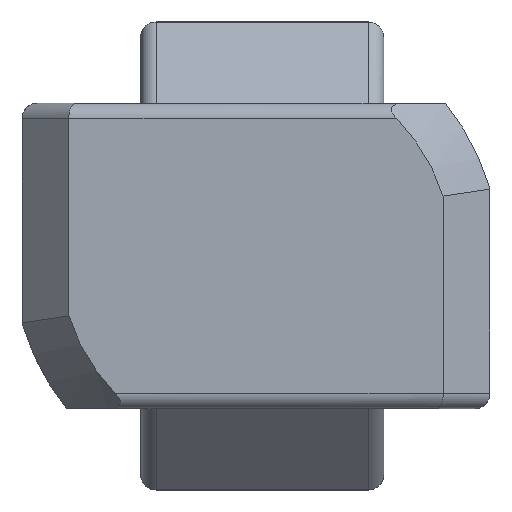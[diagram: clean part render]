
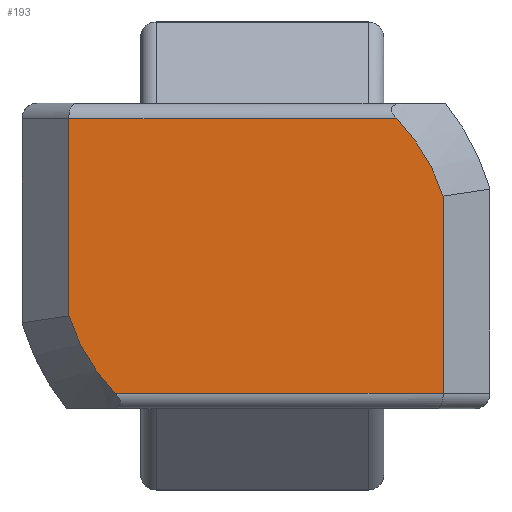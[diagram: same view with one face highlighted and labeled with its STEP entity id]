
A CAD part, left-side view. The second image highlights one B-rep face of the part: STEP entity #193.
In plain terms, the highlighted planar face has unit normal (-1, 0, 0).
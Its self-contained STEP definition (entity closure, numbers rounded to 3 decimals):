
#193=ADVANCED_FACE('',(#491),#492,.F.);
#491=FACE_OUTER_BOUND('',#901,.T.);
#492=PLANE('',#902);
#901=EDGE_LOOP('',(#1537,#1538,#1539,#1540,#1541,#1542));
#902=AXIS2_PLACEMENT_3D('',#1543,#1544,#1545);
#1537=ORIENTED_EDGE('',*,*,#2673,.F.);
#1538=ORIENTED_EDGE('',*,*,#2674,.T.);
#1539=ORIENTED_EDGE('',*,*,#2675,.F.);
#1540=ORIENTED_EDGE('',*,*,#2676,.T.);
#1541=ORIENTED_EDGE('',*,*,#2677,.T.);
#1542=ORIENTED_EDGE('',*,*,#2678,.T.);
#1543=CARTESIAN_POINT('',(-9.1,6.,16.051));
#1544=DIRECTION('',(1.0,0.0,0.0));
#1545=DIRECTION('',(0.0,0.0,-1.0));
#2673=EDGE_CURVE('',#3224,#3225,#3226,.T.);
#2674=EDGE_CURVE('',#3224,#3227,#3228,.T.);
#2675=EDGE_CURVE('',#3045,#3227,#3229,.T.);
#2676=EDGE_CURVE('',#3045,#3230,#3231,.T.);
#2677=EDGE_CURVE('',#3230,#3232,#3233,.T.);
#2678=EDGE_CURVE('',#3232,#3225,#3234,.T.);
#3045=VERTEX_POINT('',#3739);
#3224=VERTEX_POINT('',#4043);
#3225=VERTEX_POINT('',#4044);
#3226=LINE('',#4045,#4046);
#3227=VERTEX_POINT('',#4047);
#3228=CIRCLE('',#4048,6.3);
#3229=LINE('',#4049,#4050);
#3230=VERTEX_POINT('',#4051);
#3231=LINE('',#4052,#4053);
#3232=VERTEX_POINT('',#4054);
#3233=CIRCLE('',#4055,6.3);
#3234=LINE('',#4056,#4057);
#3739=CARTESIAN_POINT('',(-9.1,6.,4.4));
#4043=CARTESIAN_POINT('',(-9.1,-6.,1.921));
#4044=CARTESIAN_POINT('',(-9.1,-6.,-4.4));
#4045=CARTESIAN_POINT('',(-9.1,-6.,16.051));
#4046=VECTOR('',#5035,1.0);
#4047=CARTESIAN_POINT('',(-9.1,-4.509,4.4));
#4048=AXIS2_PLACEMENT_3D('',#5036,#5037,#5038);
#4049=CARTESIAN_POINT('',(-9.1,15.208,4.4));
#4050=VECTOR('',#5039,1.0);
#4051=CARTESIAN_POINT('',(-9.1,6.,-1.921));
#4052=CARTESIAN_POINT('',(-9.1,6.,16.051));
#4053=VECTOR('',#5040,1.0);
#4054=CARTESIAN_POINT('',(-9.1,4.509,-4.4));
#4055=AXIS2_PLACEMENT_3D('',#5041,#5042,#5043);
#4056=CARTESIAN_POINT('',(-9.1,15.208,-4.4));
#4057=VECTOR('',#5044,1.0);
#5035=DIRECTION('',(0.0,0.0,-1.0));
#5036=CARTESIAN_POINT('',(-9.1,0.,0.));
#5037=DIRECTION('',(-1.,0.,0.0));
#5038=DIRECTION('',(0.,-1.,0.0));
#5039=DIRECTION('',(0.0,-1.0,0.0));
#5040=DIRECTION('',(0.0,0.0,-1.0));
#5041=CARTESIAN_POINT('',(-9.1,0.,0.));
#5042=DIRECTION('',(-1.,0.,0.0));
#5043=DIRECTION('',(0.,-1.,0.0));
#5044=DIRECTION('',(0.0,-1.0,0.0));
